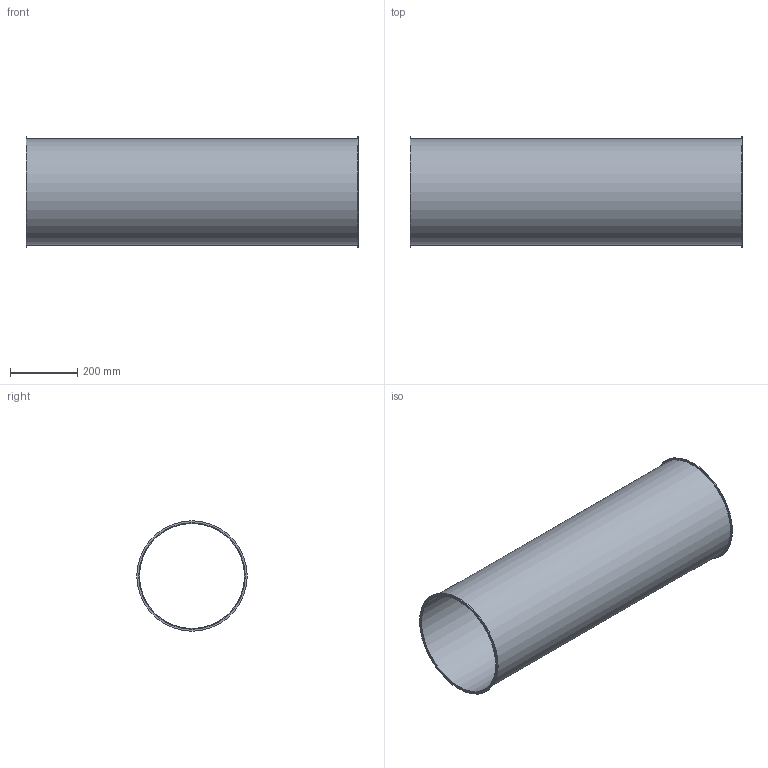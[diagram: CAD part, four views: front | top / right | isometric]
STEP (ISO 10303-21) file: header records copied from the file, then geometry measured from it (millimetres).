
FILE_DESCRIPTION((''),'2;1');
FILE_NAME('U:\Wolfgang\Marcel-3D\fertig\Kapitel 1\3121002.stp','2010-05-31T11:40:07',('TK2'),(''),'Autodesk Inventor 2010','Autodesk Inventor 2010','');
FILE_SCHEMA(('AUTOMOTIVE_DESIGN { 1 0 10303 214 1 1 1 1 }'));
Length unit declared in the file: millimetre
Products named in the file (1): 3121002
Bounding box: 986 x 328 x 328 mm (x, y, z)
Volume: 1969577.5 mm3; surface area: 1973674.2 mm2
Topology: 1 solids, 1 shells, 8 faces, 12 edges, 8 vertices
Faces by surface type: cylinder 4, plane 4
Full cylindrical faces by diameter (mm): 312 x1, 316 x1, 328 x2
Entity records: 194 total; most frequent: DIRECTION 34, CARTESIAN_POINT 25, AXIS2_PLACEMENT_3D 17, ORIENTED_EDGE 16, EDGE_LOOP 16, VERTEX_POINT 8, CIRCLE 8, EDGE_CURVE 8
